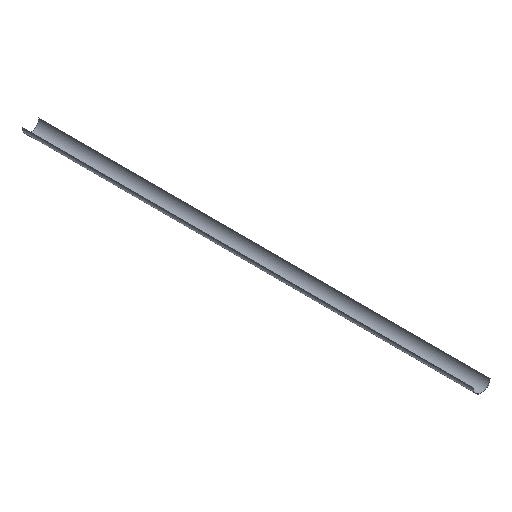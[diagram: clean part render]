
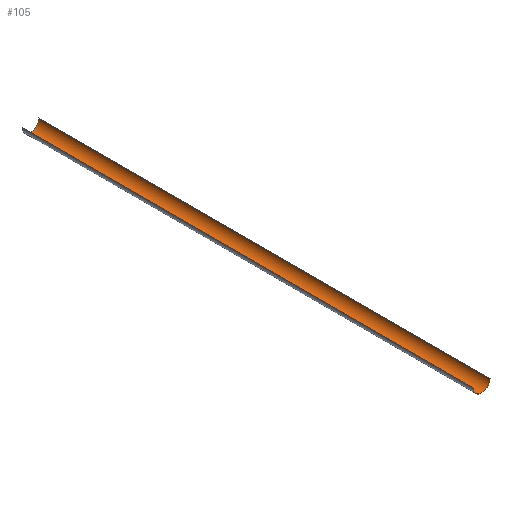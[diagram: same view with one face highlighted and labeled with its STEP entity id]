
A CAD part, isometric view. The second image highlights one B-rep face of the part: STEP entity #105.
In plain terms, the highlighted cylindrical face has radius 55 mm (diameter 110 mm), a partial arc.
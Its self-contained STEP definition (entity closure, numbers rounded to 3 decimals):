
#13=CYLINDRICAL_SURFACE($,#117,55.);
#18=FACE_OUTER_BOUND($,#24,.T.);
#24=EDGE_LOOP($,(#82,#83,#84,#85));
#26=CIRCLE($,#111,55.);
#29=CIRCLE($,#118,55.);
#34=LINE($,#165,#42);
#37=LINE($,#173,#45);
#42=VECTOR($,#134,3000.);
#45=VECTOR($,#143,3000.);
#46=VERTEX_POINT($,#152);
#48=VERTEX_POINT($,#155);
#50=VERTEX_POINT($,#161);
#53=VERTEX_POINT($,#171);
#55=EDGE_CURVE($,#48,#46,#26,.T.);
#60=EDGE_CURVE($,#50,#48,#34,.T.);
#64=EDGE_CURVE($,#46,#53,#37,.T.);
#65=EDGE_CURVE($,#53,#50,#29,.T.);
#82=ORIENTED_EDGE($,*,*,#65,.T.);
#83=ORIENTED_EDGE($,*,*,#60,.T.);
#84=ORIENTED_EDGE($,*,*,#55,.T.);
#85=ORIENTED_EDGE($,*,*,#64,.T.);
#105=ADVANCED_FACE($,(#18),#13,.F.);
#111=AXIS2_PLACEMENT_3D($,#156,#125,#126);
#117=AXIS2_PLACEMENT_3D($,#174,#144,#145);
#118=AXIS2_PLACEMENT_3D($,#175,#146,#147);
#125=DIRECTION('center_axis',(0.,-1.,0.));
#126=DIRECTION('ref_axis',(-1.,0.,0.));
#134=DIRECTION($,(0.,-1.,0.));
#143=DIRECTION($,(0.,1.,0.));
#144=DIRECTION('center_axis',(0.,1.,0.));
#145=DIRECTION('ref_axis',(-1.,0.,0.));
#146=DIRECTION('center_axis',(0.,1.,0.));
#147=DIRECTION('ref_axis',(-1.,0.,0.));
#152=CARTESIAN_POINT('',(55.,-1500.,0.));
#155=CARTESIAN_POINT('',(-55.,-1500.,0.));
#156=CARTESIAN_POINT('Origin',(0.,-1500.,0.));
#161=CARTESIAN_POINT('',(-55.,1500.,0.));
#165=CARTESIAN_POINT($,(-55.,0.,0.));
#171=CARTESIAN_POINT('',(55.,1500.,0.));
#173=CARTESIAN_POINT($,(55.,0.,0.));
#174=CARTESIAN_POINT('Origin',(0.,0.,0.));
#175=CARTESIAN_POINT('Origin',(0.,1500.,0.));
